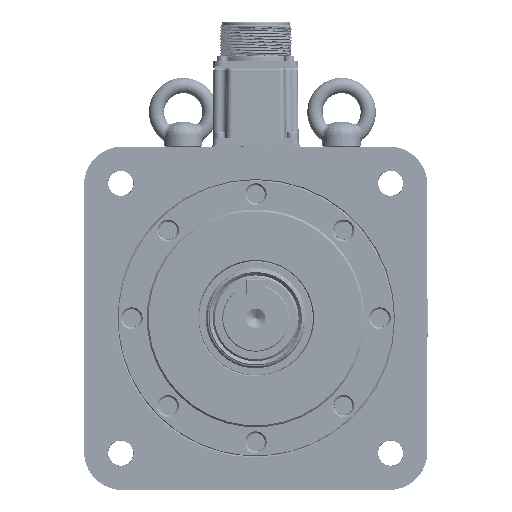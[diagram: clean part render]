
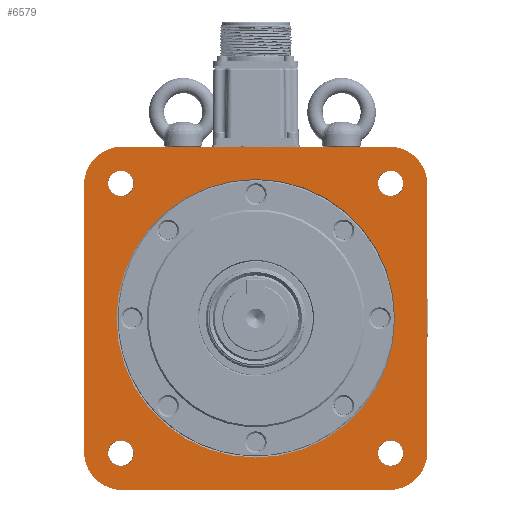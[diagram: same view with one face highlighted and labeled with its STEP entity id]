
A CAD part, front view. The second image highlights one B-rep face of the part: STEP entity #6579.
In plain terms, the highlighted planar face has unit normal (0, -1, 0).
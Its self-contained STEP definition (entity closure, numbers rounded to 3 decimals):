
#6579 = ADVANCED_FACE( '', ( #13684, #13685, #13686, #13687, #13688, #13689 ), #13690, .F. );
#13684 = FACE_BOUND( '', #33037, .T. );
#13685 = FACE_BOUND( '', #33038, .T. );
#13686 = FACE_BOUND( '', #33039, .T. );
#13687 = FACE_BOUND( '', #33040, .T. );
#13688 = FACE_BOUND( '', #33041, .T. );
#13689 = FACE_OUTER_BOUND( '', #33042, .T. );
#13690 = PLANE( '', #33043 );
#33037 = EDGE_LOOP( '', ( #54346 ) );
#33038 = EDGE_LOOP( '', ( #54347 ) );
#33039 = EDGE_LOOP( '', ( #54348 ) );
#33040 = EDGE_LOOP( '', ( #54349 ) );
#33041 = EDGE_LOOP( '', ( #54350 ) );
#33042 = EDGE_LOOP( '', ( #54351, #54352, #54353, #54354, #54355, #54356, #54357, #54358 ) );
#33043 = AXIS2_PLACEMENT_3D( '', #54359, #54360, #54361 );
#54346 = ORIENTED_EDGE( '', *, *, #63590, .T. );
#54347 = ORIENTED_EDGE( '', *, *, #66909, .F. );
#54348 = ORIENTED_EDGE( '', *, *, #66910, .F. );
#54349 = ORIENTED_EDGE( '', *, *, #66805, .F. );
#54350 = ORIENTED_EDGE( '', *, *, #65033, .F. );
#54351 = ORIENTED_EDGE( '', *, *, #64822, .T. );
#54352 = ORIENTED_EDGE( '', *, *, #64554, .T. );
#54353 = ORIENTED_EDGE( '', *, *, #66911, .T. );
#54354 = ORIENTED_EDGE( '', *, *, #64260, .T. );
#54355 = ORIENTED_EDGE( '', *, *, #66912, .T. );
#54356 = ORIENTED_EDGE( '', *, *, #63600, .T. );
#54357 = ORIENTED_EDGE( '', *, *, #66913, .T. );
#54358 = ORIENTED_EDGE( '', *, *, #66914, .T. );
#54359 = CARTESIAN_POINT( '', ( 0., 1.3, 72.5 ) );
#54360 = DIRECTION( '', ( 0., 1., 0. ) );
#54361 = DIRECTION( '', ( 0., 0., 1. ) );
#63590 = EDGE_CURVE( '', #73300, #73300, #73301, .T. );
#63600 = EDGE_CURVE( '', #73314, #73315, #73316, .F. );
#64260 = EDGE_CURVE( '', #74326, #74327, #74328, .F. );
#64554 = EDGE_CURVE( '', #74775, #74776, #74777, .F. );
#64822 = EDGE_CURVE( '', #75163, #74775, #75164, .T. );
#65033 = EDGE_CURVE( '', #75489, #75489, #75490, .F. );
#66805 = EDGE_CURVE( '', #77863, #77863, #77864, .F. );
#66909 = EDGE_CURVE( '', #77992, #77992, #77993, .F. );
#66910 = EDGE_CURVE( '', #77994, #77994, #77995, .F. );
#66911 = EDGE_CURVE( '', #74776, #74326, #77996, .T. );
#66912 = EDGE_CURVE( '', #74327, #73314, #77997, .T. );
#66913 = EDGE_CURVE( '', #73315, #77998, #77999, .T. );
#66914 = EDGE_CURVE( '', #77998, #75163, #78000, .F. );
#73300 = VERTEX_POINT( '', #90570 );
#73301 = CIRCLE( '', #90571, 73. );
#73314 = VERTEX_POINT( '', #90586 );
#73315 = VERTEX_POINT( '', #90587 );
#73316 = CIRCLE( '', #90588, 20. );
#74326 = VERTEX_POINT( '', #95823 );
#74327 = VERTEX_POINT( '', #95824 );
#74328 = CIRCLE( '', #95825, 20. );
#74775 = VERTEX_POINT( '', #96885 );
#74776 = VERTEX_POINT( '', #96886 );
#74777 = CIRCLE( '', #96887, 20. );
#75163 = VERTEX_POINT( '', #97667 );
#75164 = LINE( '', #97668, #97669 );
#75489 = VERTEX_POINT( '', #98950 );
#75490 = CIRCLE( '', #98951, 6.745 );
#77863 = VERTEX_POINT( '', #105550 );
#77864 = CIRCLE( '', #105551, 6.745 );
#77992 = VERTEX_POINT( '', #105754 );
#77993 = CIRCLE( '', #105755, 6.745 );
#77994 = VERTEX_POINT( '', #105756 );
#77995 = CIRCLE( '', #105757, 6.745 );
#77996 = LINE( '', #105758, #105759 );
#77997 = LINE( '', #105760, #105761 );
#77998 = VERTEX_POINT( '', #105762 );
#77999 = LINE( '', #105763, #105764 );
#78000 = CIRCLE( '', #105765, 20. );
#90570 = CARTESIAN_POINT( '', ( 0., 1.3, 73. ) );
#90571 = AXIS2_PLACEMENT_3D( '', #112120, #112121, #112122 );
#90586 = CARTESIAN_POINT( '', ( 90., 1.3, 70. ) );
#90587 = CARTESIAN_POINT( '', ( 70., 1.3, 90. ) );
#90588 = AXIS2_PLACEMENT_3D( '', #112134, #112135, #112136 );
#95823 = CARTESIAN_POINT( '', ( 70., 1.3, -90. ) );
#95824 = CARTESIAN_POINT( '', ( 90., 1.3, -70. ) );
#95825 = AXIS2_PLACEMENT_3D( '', #112858, #112859, #112860 );
#96885 = CARTESIAN_POINT( '', ( -90., 1.3, -70. ) );
#96886 = CARTESIAN_POINT( '', ( -70., 1.3, -90. ) );
#96887 = AXIS2_PLACEMENT_3D( '', #113240, #113241, #113242 );
#97667 = CARTESIAN_POINT( '', ( -90., 1.3, 70. ) );
#97668 = CARTESIAN_POINT( '', ( -90., 1.3, 90. ) );
#97669 = VECTOR( '', #113598, 1000. );
#98950 = CARTESIAN_POINT( '', ( -70.711, 1.3, -63.966 ) );
#98951 = AXIS2_PLACEMENT_3D( '', #113786, #113787, #113788 );
#105550 = CARTESIAN_POINT( '', ( 70.711, 1.3, -63.966 ) );
#105551 = AXIS2_PLACEMENT_3D( '', #115630, #115631, #115632 );
#105754 = CARTESIAN_POINT( '', ( -70.711, 1.3, 77.455 ) );
#105755 = AXIS2_PLACEMENT_3D( '', #115720, #115721, #115722 );
#105756 = CARTESIAN_POINT( '', ( 70.711, 1.3, 77.455 ) );
#105757 = AXIS2_PLACEMENT_3D( '', #115723, #115724, #115725 );
#105758 = CARTESIAN_POINT( '', ( -90., 1.3, -90. ) );
#105759 = VECTOR( '', #115726, 1000. );
#105760 = CARTESIAN_POINT( '', ( 90., 1.3, -90. ) );
#105761 = VECTOR( '', #115727, 1000. );
#105762 = CARTESIAN_POINT( '', ( -70., 1.3, 90. ) );
#105763 = CARTESIAN_POINT( '', ( 90., 1.3, 90. ) );
#105764 = VECTOR( '', #115728, 1000. );
#105765 = AXIS2_PLACEMENT_3D( '', #115729, #115730, #115731 );
#112120 = CARTESIAN_POINT( '', ( 0., 1.3, 0. ) );
#112121 = DIRECTION( '', ( 0., 1., 0. ) );
#112122 = DIRECTION( '', ( 0., 0., 1. ) );
#112134 = CARTESIAN_POINT( '', ( 70., 1.3, 70. ) );
#112135 = DIRECTION( '', ( 0., 1., 0. ) );
#112136 = DIRECTION( '', ( 0., 0., 1. ) );
#112858 = CARTESIAN_POINT( '', ( 70., 1.3, -70. ) );
#112859 = DIRECTION( '', ( 0., 1., 0. ) );
#112860 = DIRECTION( '', ( 0., 0., 1. ) );
#113240 = CARTESIAN_POINT( '', ( -70., 1.3, -70. ) );
#113241 = DIRECTION( '', ( 0., 1., 0. ) );
#113242 = DIRECTION( '', ( 0., 0., 1. ) );
#113598 = DIRECTION( '', ( 0., 0., -1. ) );
#113786 = CARTESIAN_POINT( '', ( -70.711, 1.3, -70.711 ) );
#113787 = DIRECTION( '', ( 0., 1., 0. ) );
#113788 = DIRECTION( '', ( 0., 0., 1. ) );
#115630 = CARTESIAN_POINT( '', ( 70.711, 1.3, -70.711 ) );
#115631 = DIRECTION( '', ( 0., 1., 0. ) );
#115632 = DIRECTION( '', ( 0., 0., 1. ) );
#115720 = CARTESIAN_POINT( '', ( -70.711, 1.3, 70.711 ) );
#115721 = DIRECTION( '', ( 0., 1., 0. ) );
#115722 = DIRECTION( '', ( 0., 0., 1. ) );
#115723 = CARTESIAN_POINT( '', ( 70.711, 1.3, 70.711 ) );
#115724 = DIRECTION( '', ( 0., 1., 0. ) );
#115725 = DIRECTION( '', ( 0., 0., 1. ) );
#115726 = DIRECTION( '', ( 1., 0., 0. ) );
#115727 = DIRECTION( '', ( 0., 0., 1. ) );
#115728 = DIRECTION( '', ( -1., 0., 0. ) );
#115729 = CARTESIAN_POINT( '', ( -70., 1.3, 70. ) );
#115730 = DIRECTION( '', ( 0., 1., 0. ) );
#115731 = DIRECTION( '', ( 0., 0., 1. ) );
